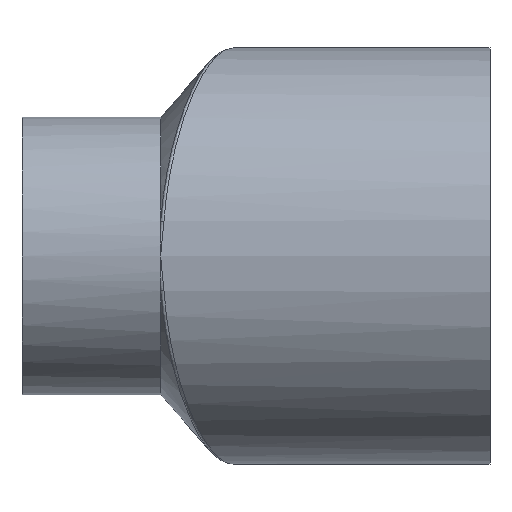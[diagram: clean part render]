
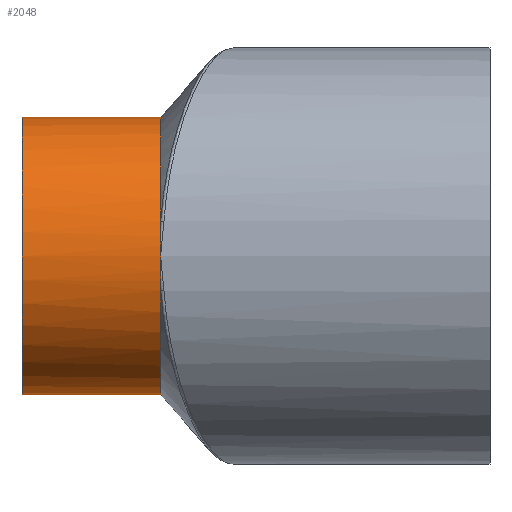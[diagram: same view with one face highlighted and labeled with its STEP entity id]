
A CAD part, front view. The second image highlights one B-rep face of the part: STEP entity #2048.
In plain terms, the highlighted cylindrical face has radius 25.4 mm (diameter 50.8 mm), a partial arc.
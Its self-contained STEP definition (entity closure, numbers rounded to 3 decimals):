
#42 = EDGE_CURVE ( 'NONE', #1372, #122, #2114, .T. ) ;
#72 = AXIS2_PLACEMENT_3D ( 'NONE', #1951, #1759, #1933 ) ;
#79 = DIRECTION ( 'NONE',  ( 0., 0., -1. ) ) ;
#94 = VERTEX_POINT ( 'NONE', #812 ) ;
#122 = VERTEX_POINT ( 'NONE', #1977 ) ;
#125 = ORIENTED_EDGE ( 'NONE', *, *, #1622, .F. ) ;
#167 = CARTESIAN_POINT ( 'NONE',  ( -60.325, -37.76, 4.278 ) ) ;
#227 = CARTESIAN_POINT ( 'NONE',  ( -60.325, -37.291, 6.361 ) ) ;
#303 = CARTESIAN_POINT ( 'NONE',  ( -60.325, -37.291, -6.361 ) ) ;
#304 = VECTOR ( 'NONE', #602, 1000. ) ;
#313 = DIRECTION ( 'NONE',  ( 0., 0., -1. ) ) ;
#355 = ORIENTED_EDGE ( 'NONE', *, *, #1141, .T. ) ;
#360 = CIRCLE ( 'NONE', #72, 25.4 ) ;
#377 = CARTESIAN_POINT ( 'NONE',  ( -53.517, -12.7, 0. ) ) ;
#466 = CARTESIAN_POINT ( 'NONE',  ( -60.325, -37.557, 5.33 ) ) ;
#592 = LINE ( 'NONE', #1261, #304 ) ;
#602 = DIRECTION ( 'NONE',  ( -1., 0., 0. ) ) ;
#616 = VERTEX_POINT ( 'NONE', #303 ) ;
#760 = VECTOR ( 'NONE', #1306, 1000. ) ;
#765 = ORIENTED_EDGE ( 'NONE', *, *, #1110, .F. ) ;
#782 = VERTEX_POINT ( 'NONE', #227 ) ;
#788 = CARTESIAN_POINT ( 'NONE',  ( -60.325, -37.291, -6.361 ) ) ;
#791 = DIRECTION ( 'NONE',  ( 0., 0., -1. ) ) ;
#812 = CARTESIAN_POINT ( 'NONE',  ( -60.325, -12.7, -25.4 ) ) ;
#820 = B_SPLINE_CURVE_WITH_KNOTS ( 'NONE', 3,
 ( #1957, #466, #167, #1613, #1281, #1458 ),
 .UNSPECIFIED., .F., .F.,
 ( 4, 2, 4 ),
 ( 0., 0.5, 1. ),
 .UNSPECIFIED. ) ;
#848 = B_SPLINE_CURVE_WITH_KNOTS ( 'NONE', 3,
 ( #1454, #1284, #1969, #1953, #1976, #788 ),
 .UNSPECIFIED., .F., .F.,
 ( 4, 2, 4 ),
 ( 0., 0.5, 1. ),
 .UNSPECIFIED. ) ;
#870 = AXIS2_PLACEMENT_3D ( 'NONE', #2131, #1980, #791 ) ;
#881 = EDGE_CURVE ( 'NONE', #94, #1795, #592, .T. ) ;
#894 = FACE_OUTER_BOUND ( 'NONE', #1093, .T. ) ;
#940 = CYLINDRICAL_SURFACE ( 'NONE', #2075, 25.4 ) ;
#958 = ORIENTED_EDGE ( 'NONE', *, *, #42, .T. ) ;
#1017 = ORIENTED_EDGE ( 'NONE', *, *, #881, .F. ) ;
#1035 = EDGE_CURVE ( 'NONE', #1372, #782, #360, .T. ) ;
#1093 = EDGE_LOOP ( 'NONE', ( #1119, #958, #355, #1017, #125, #1931, #765 ) ) ;
#1110 = EDGE_CURVE ( 'NONE', #782, #1954, #820, .T. ) ;
#1119 = ORIENTED_EDGE ( 'NONE', *, *, #1035, .F. ) ;
#1126 = CARTESIAN_POINT ( 'NONE',  ( -60.325, -12.7, 0. ) ) ;
#1141 = EDGE_CURVE ( 'NONE', #122, #1795, #1749, .T. ) ;
#1261 = CARTESIAN_POINT ( 'NONE',  ( -53.517, -12.7, -25.4 ) ) ;
#1281 = CARTESIAN_POINT ( 'NONE',  ( -60.325, -38.1, 1.08 ) ) ;
#1284 = CARTESIAN_POINT ( 'NONE',  ( -60.325, -38.1, -1.08 ) ) ;
#1306 = DIRECTION ( 'NONE',  ( -1., 0., 0. ) ) ;
#1350 = AXIS2_PLACEMENT_3D ( 'NONE', #1126, #1628, #313 ) ;
#1372 = VERTEX_POINT ( 'NONE', #1997 ) ;
#1454 = CARTESIAN_POINT ( 'NONE',  ( -60.325, -38.1, 0. ) ) ;
#1458 = CARTESIAN_POINT ( 'NONE',  ( -60.325, -38.1, 0. ) ) ;
#1544 = EDGE_CURVE ( 'NONE', #1954, #616, #848, .T. ) ;
#1613 = CARTESIAN_POINT ( 'NONE',  ( -60.325, -38.031, 2.153 ) ) ;
#1622 = EDGE_CURVE ( 'NONE', #616, #94, #2145, .T. ) ;
#1628 = DIRECTION ( 'NONE',  ( 1., 0., 0. ) ) ;
#1709 = DIRECTION ( 'NONE',  ( -1., 0., 0. ) ) ;
#1749 = CIRCLE ( 'NONE', #870, 25.4 ) ;
#1759 = DIRECTION ( 'NONE',  ( 1., 0., 0. ) ) ;
#1795 = VERTEX_POINT ( 'NONE', #1799 ) ;
#1799 = CARTESIAN_POINT ( 'NONE',  ( -85.725, -12.7, -25.4 ) ) ;
#1835 = CARTESIAN_POINT ( 'NONE',  ( -53.517, -12.7, 25.4 ) ) ;
#1931 = ORIENTED_EDGE ( 'NONE', *, *, #1544, .F. ) ;
#1933 = DIRECTION ( 'NONE',  ( 0., 0., -1. ) ) ;
#1951 = CARTESIAN_POINT ( 'NONE',  ( -60.325, -12.7, 0. ) ) ;
#1953 = CARTESIAN_POINT ( 'NONE',  ( -60.325, -37.76, -4.278 ) ) ;
#1954 = VERTEX_POINT ( 'NONE', #2029 ) ;
#1957 = CARTESIAN_POINT ( 'NONE',  ( -60.325, -37.291, 6.361 ) ) ;
#1969 = CARTESIAN_POINT ( 'NONE',  ( -60.325, -38.031, -2.153 ) ) ;
#1976 = CARTESIAN_POINT ( 'NONE',  ( -60.325, -37.557, -5.33 ) ) ;
#1977 = CARTESIAN_POINT ( 'NONE',  ( -85.725, -12.7, 25.4 ) ) ;
#1980 = DIRECTION ( 'NONE',  ( 1., 0., 0. ) ) ;
#1997 = CARTESIAN_POINT ( 'NONE',  ( -60.325, -12.7, 25.4 ) ) ;
#2029 = CARTESIAN_POINT ( 'NONE',  ( -60.325, -38.1, 0. ) ) ;
#2048 = ADVANCED_FACE ( 'NONE', ( #894 ), #940, .T. ) ;
#2075 = AXIS2_PLACEMENT_3D ( 'NONE', #377, #1709, #79 ) ;
#2114 = LINE ( 'NONE', #1835, #760 ) ;
#2131 = CARTESIAN_POINT ( 'NONE',  ( -85.725, -12.7, 0. ) ) ;
#2145 = CIRCLE ( 'NONE', #1350, 25.4 ) ;
